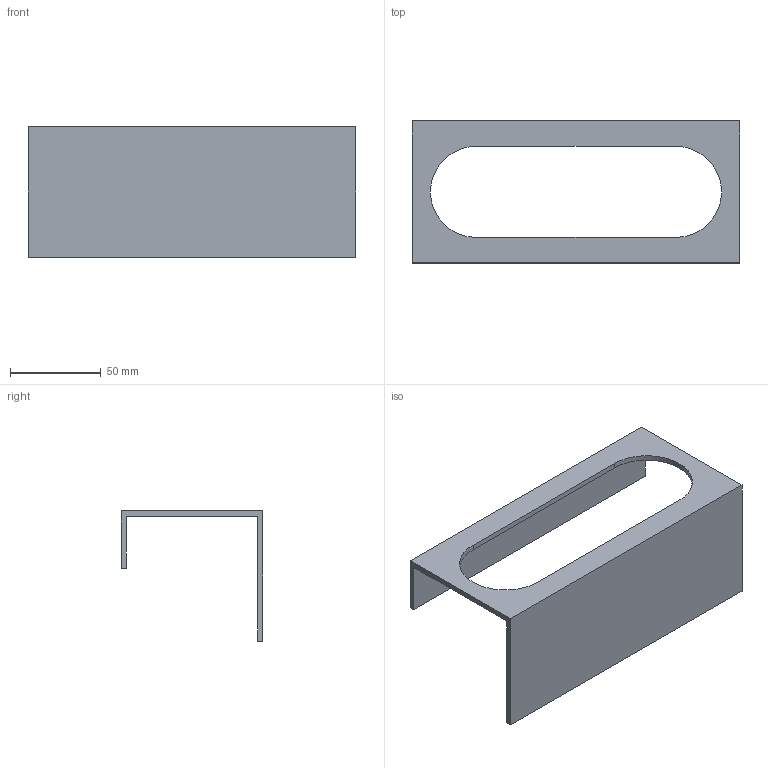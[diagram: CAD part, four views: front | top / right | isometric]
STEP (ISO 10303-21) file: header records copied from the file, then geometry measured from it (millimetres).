
FILE_DESCRIPTION(/* description */ (''),/* implementation_level */ '2;1');
FILE_NAME(/* name */ 'uchwyt_2 v10.step',/* time_stamp */ '2026-04-10T14:32:37+02:00',/* author */ (''),/* organization */ (''),/* preprocessor_version */ 'ST-DEVELOPER v20.1',/* originating_system */ 'Autodesk Translation Framework v14.24.0.0',/* authorisation */ '');
FILE_SCHEMA (('AUTOMOTIVE_DESIGN { 1 0 10303 214 3 1 1 }'));
Length unit declared in the file: millimetre
Products named in the file (1): (Niezapisany)
Bounding box: 180 x 78 x 71.5 mm (x, y, z)
Volume: 71967 mm3; surface area: 51342.9 mm2
Topology: 1 solids, 1 shells, 16 faces, 42 edges, 28 vertices
Faces by surface type: plane 12, cylinder 4
Full cylindrical faces by diameter (mm): 5.5 x2
Entity records: 539 total; most frequent: CARTESIAN_POINT 87, ORIENTED_EDGE 84, DIRECTION 84, EDGE_CURVE 42, LINE 34, VECTOR 34, VERTEX_POINT 28, AXIS2_PLACEMENT_3D 25
